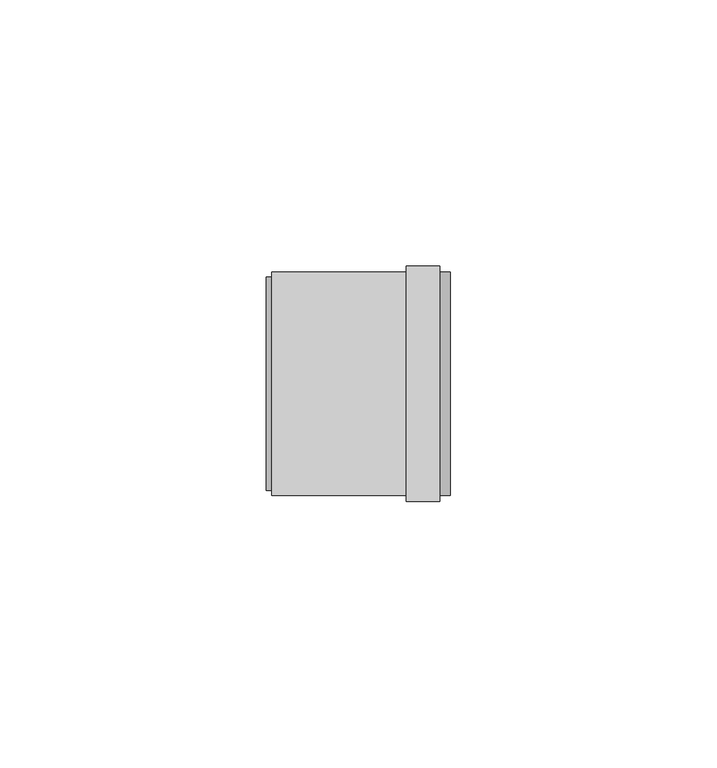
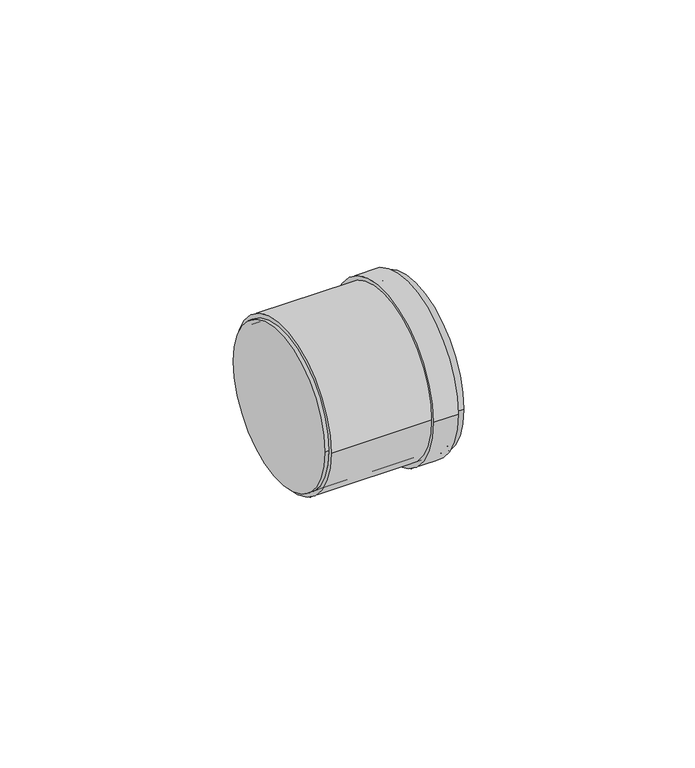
"""IFC4 building model written with IfcOpenShell, lengths in millimetres: pipe fitting geometry, Superdrain HTM-Plug : Superdrain HTM-Plug."""

from ifc_helpers import new_model, si_unit, point, frame, origin, origin_2d, place, context, project, spatial, polyline, circle_curve, trimmed, segment, composite_curve, outline, extrude, source, transform, mapped, element, save
from ifc_brep_helpers import plane_surface, cylinder_surface, revolved_surface, advanced_brep


def pipe_fitting_c8f16737(model_context):
    return source(origin(), model_context, "Body", "SolidModel", [
        extrude(outline(composite_curve([segment(trimmed(circle_curve(origin_2d(), 21.0), [point((21.0, 0.0))], [point((-21.0, 0.0))], False, "CARTESIAN"), True, "CONTINUOUS"), segment(trimmed(circle_curve(origin_2d(), 21.0), [point((-21.0, 0.0))], [point((21.0, 0.0))], False, "CARTESIAN"), True, "CONTINUOUS")], self_intersect=False), holes=[composite_curve([segment(trimmed(circle_curve(origin_2d(), 20.0), [point((20.0, 0.0))], [point((-20.0, 0.0))], True, "CARTESIAN"), True, "CONTINUOUS"), segment(trimmed(circle_curve(origin_2d(), 20.0), [point((-20.0, 0.0))], [point((20.0, 0.0))], True, "CARTESIAN"), True, "CONTINUOUS")], self_intersect=False)]), frame((0.0, 0.0, 0.0), z_axis=(1.0, 0.0, 0.0), x_axis=(0.0, 1.0, 0.0)), (0.0, 0.0, 1.0), 31.5),
        extrude(outline(composite_curve([segment(trimmed(circle_curve(origin_2d(), 22.05), [point((22.05, 0.0))], [point((-22.05, 0.0))], False, "CARTESIAN"), True, "CONTINUOUS"), segment(trimmed(circle_curve(origin_2d(), 22.05), [point((-22.05, 0.0))], [point((22.05, 0.0))], False, "CARTESIAN"), True, "CONTINUOUS")], self_intersect=False), holes=[composite_curve([segment(trimmed(circle_curve(origin_2d(), 20.0), [point((20.0, 0.0))], [point((-20.0, 0.0))], True, "CARTESIAN"), True, "CONTINUOUS"), segment(trimmed(circle_curve(origin_2d(), 20.0), [point((-20.0, 0.0))], [point((20.0, 0.0))], True, "CARTESIAN"), True, "CONTINUOUS")], self_intersect=False)]), frame((25.2, 0.0, 0.0), z_axis=(1.0, 0.0, 0.0), x_axis=(0.0, 1.0, 0.0)), (0.0, 0.0, 1.0), 6.3),
        extrude(outline(composite_curve([segment(trimmed(circle_curve(origin_2d(), 20.0), [point((20.0, 0.0))], [point((-20.0, 0.0))], False, "CARTESIAN"), True, "CONTINUOUS"), segment(trimmed(circle_curve(origin_2d(), 20.0), [point((-20.0, 0.0))], [point((20.0, 0.0))], False, "CARTESIAN"), True, "CONTINUOUS")], self_intersect=False)), frame((-1.0, 0.0, 0.0), z_axis=(1.0, 0.0, 0.0), x_axis=(0.0, 1.0, 0.0)), (0.0, 0.0, 1.0), 1.0),
        advanced_brep(
        [(0.0, -20.0, 0.0), (0.0, 20.0, 0.0), (0.0, 19.0, 0.0), (0.0, -19.0, 0.0), (33.5, -20.0, 0.0), (33.5, 20.0, 0.0), (31.5, -19.0, 0.0), (31.5, 19.0, 0.0)],
        [
            (0, 1, circle_curve(frame((0.0, 0.0, 0.0), z_axis=(-1.0, 0.0, 0.0), x_axis=(0.0, 1.0, 0.0)), 20.0)),
            (1, 0, circle_curve(frame((0.0, 0.0, 0.0), z_axis=(-1.0, 0.0, 0.0), x_axis=(0.0, 1.0, 0.0)), 20.0)),
            (2, 3, circle_curve(frame((0.0, 0.0, 0.0), z_axis=(1.0, 0.0, 0.0), x_axis=(0.0, 1.0, 0.0)), 19.0)),
            (3, 2, circle_curve(frame((0.0, 0.0, 0.0), z_axis=(1.0, 0.0, 0.0), x_axis=(0.0, 1.0, 0.0)), 19.0)),
            (4, 5, circle_curve(frame((33.5, 0.0, 0.0), z_axis=(1.0, 0.0, 0.0), x_axis=(0.0, 1.0, 0.0)), 20.0)),
            (5, 4, circle_curve(frame((33.5, 0.0, 0.0), z_axis=(1.0, 0.0, 0.0), x_axis=(0.0, 1.0, 0.0)), 20.0)),
            (0, 4),
            (5, 1),
            (6, 7, circle_curve(frame((31.5, 0.0, 0.0), z_axis=(-1.0, 0.0, 0.0), x_axis=(0.0, 1.0, 0.0)), 19.0)),
            (7, 6, circle_curve(frame((31.5, 0.0, 0.0), z_axis=(-1.0, 0.0, 0.0), x_axis=(0.0, 1.0, 0.0)), 19.0)),
            (6, 3),
            (2, 7),
        ],
        [
            plane_surface(frame((0.0, 0.0, 0.0), z_axis=(-1.0, 0.0, 0.0), x_axis=(0.0, 0.0, 1.0))),
            plane_surface(frame((33.5, 0.0, 0.0), z_axis=(1.0, 0.0, 0.0), x_axis=(0.0, 0.0, 1.0))),
            cylinder_surface(frame((0.0, 0.0, 0.0), z_axis=(-1.0, 0.0, 0.0), x_axis=(0.0, 1.0, 0.0)), 20.0),
            plane_surface(frame((31.5, 0.0, 0.0), z_axis=(-1.0, 0.0, 0.0), x_axis=(0.0, 0.0, 1.0))),
            revolved_surface(polyline([(0.0, 19.0, 0.0), (31.5, 19.0, 0.0)]), (-2.0, 0.0, 0.0), (-1.0, 0.0, 0.0)),
        ],
        [
            (0, [[1, 2], [3, 4]]),
            (1, [[5, 6]]),
            (2, [[-1, 7, -6, 8]]),
            (2, [[-2, -8, -5, -7]]),
            (3, [[9, 10]]),
            (4, [[-9, 11, -3, 12]]),
            (4, [[-10, -12, -4, -11]]),
        ],
    ),
        extrude(outline(composite_curve([segment(trimmed(circle_curve(origin_2d(), 21.0), [point((-21.0, 0.0))], [point((21.0, 0.0))], False, "CARTESIAN"), True, "CONTINUOUS"), segment(trimmed(circle_curve(origin_2d(), 21.0), [point((21.0, 0.0))], [point((-21.0, 0.0))], False, "CARTESIAN"), True, "CONTINUOUS")], self_intersect=False)), frame((31.5, 0.0, 0.0), z_axis=(1.0, 0.0, 0.0), x_axis=(0.0, 1.0, 0.0)), (0.0, 0.0, 1.0), 2.0),
    ])


if __name__ == "__main__":
    model = new_model("IFC4")
    model_context = context("Model", 3, world=origin())
    ifc_project = project(units=[si_unit("LENGTHUNIT", "METRE", prefix="MILLI")], contexts=[model_context])
    site = spatial("IfcSite", under=ifc_project)
    building = spatial("IfcBuilding", under=site)
    placement = place(None, origin())
    pipe_fitting_shape = pipe_fitting_c8f16737(model_context)
    element("IfcPipeFitting", 1, ObjectType="Superdrain HTM-Plug : Superdrain HTM-Plug", at=placement, inside=building, context=model_context, shape_type="MappedRepresentation", body=[
        mapped(pipe_fitting_shape, transform((0.0, 0.0, 0.0), x_axis=(1.0, 0.0, 0.0), y_axis=(0.0, 1.0, 0.0), z_axis=(0.0, 0.0, 1.0))),
    ])
    save(model, "model.ifc")
